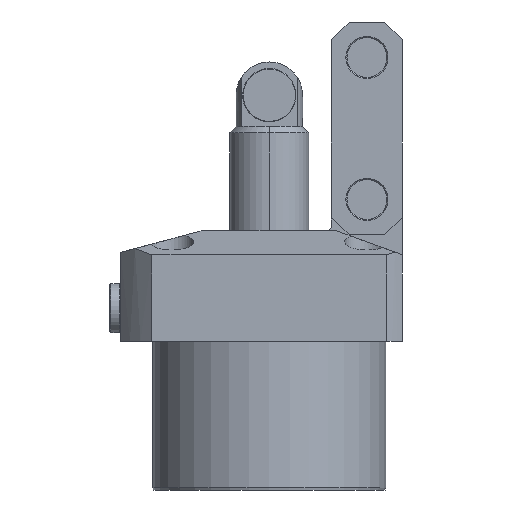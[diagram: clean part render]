
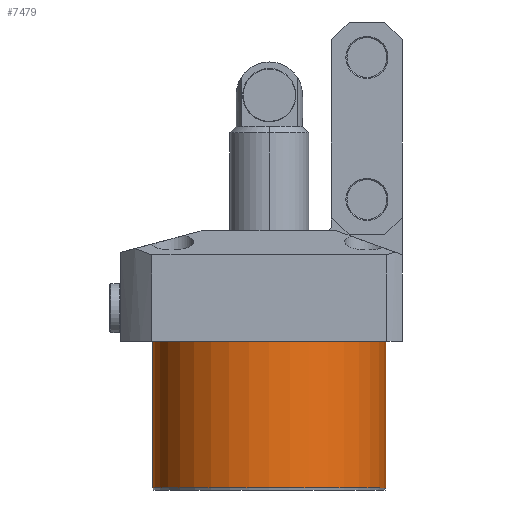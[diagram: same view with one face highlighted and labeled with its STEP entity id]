
A CAD part, front view. The second image highlights one B-rep face of the part: STEP entity #7479.
In plain terms, the highlighted cylindrical face has radius 52.5 mm (diameter 105 mm), a partial arc.
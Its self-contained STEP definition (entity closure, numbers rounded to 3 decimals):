
#1172 = VERTEX_POINT ( 'NONE', #7278 ) ;
#1739 = CARTESIAN_POINT ( 'NONE',  ( -52.5, 0., -66. ) ) ;
#1834 = CYLINDRICAL_SURFACE ( 'NONE', #7582, 52.5 ) ;
#1857 = CARTESIAN_POINT ( 'NONE',  ( 0., 0., -67. ) ) ;
#2291 = EDGE_CURVE ( 'NONE', #11722, #4925, #13828, .T. ) ;
#2991 = VECTOR ( 'NONE', #10899, 1000. ) ;
#3449 = ORIENTED_EDGE ( 'NONE', *, *, #14368, .T. ) ;
#3854 = ORIENTED_EDGE ( 'NONE', *, *, #13642, .T. ) ;
#3878 = VERTEX_POINT ( 'NONE', #17409 ) ;
#4066 = CARTESIAN_POINT ( 'NONE',  ( 52.5, 0., -66. ) ) ;
#4706 = EDGE_CURVE ( 'NONE', #11722, #1172, #9393, .T. ) ;
#4925 = VERTEX_POINT ( 'NONE', #4066 ) ;
#5023 = CARTESIAN_POINT ( 'NONE',  ( 0., 0., 0. ) ) ;
#5123 = ORIENTED_EDGE ( 'NONE', *, *, #2291, .T. ) ;
#6323 = DIRECTION ( 'NONE',  ( 1., 0., 0. ) ) ;
#7278 = CARTESIAN_POINT ( 'NONE',  ( -52.5, 0., 0. ) ) ;
#7400 = AXIS2_PLACEMENT_3D ( 'NONE', #12243, #12220, #12205 ) ;
#7479 = ADVANCED_FACE ( 'NONE', ( #10008 ), #1834, .T. ) ;
#7582 = AXIS2_PLACEMENT_3D ( 'NONE', #1857, #11382, #13997 ) ;
#8771 = DIRECTION ( 'NONE',  ( 0., 0., 1. ) ) ;
#8794 = CARTESIAN_POINT ( 'NONE',  ( -52.5, 0., -67. ) ) ;
#9367 = EDGE_LOOP ( 'NONE', ( #16475, #5123, #3449, #3854 ) ) ;
#9393 = LINE ( 'NONE', #8794, #13260 ) ;
#10008 = FACE_OUTER_BOUND ( 'NONE', #9367, .T. ) ;
#10899 = DIRECTION ( 'NONE',  ( 0., 0., 1. ) ) ;
#11382 = DIRECTION ( 'NONE',  ( 0., 0., 1. ) ) ;
#11722 = VERTEX_POINT ( 'NONE', #1739 ) ;
#12197 = CARTESIAN_POINT ( 'NONE',  ( 52.5, 0., -67. ) ) ;
#12205 = DIRECTION ( 'NONE',  ( -1., 0., 0. ) ) ;
#12220 = DIRECTION ( 'NONE',  ( 0., 0., 1. ) ) ;
#12243 = CARTESIAN_POINT ( 'NONE',  ( 0., 0., -66. ) ) ;
#13260 = VECTOR ( 'NONE', #8771, 1000. ) ;
#13312 = LINE ( 'NONE', #12197, #2991 ) ;
#13642 = EDGE_CURVE ( 'NONE', #3878, #1172, #15634, .T. ) ;
#13828 = CIRCLE ( 'NONE', #7400, 52.5 ) ;
#13997 = DIRECTION ( 'NONE',  ( 1., 0., 0. ) ) ;
#14368 = EDGE_CURVE ( 'NONE', #4925, #3878, #13312, .T. ) ;
#14423 = DIRECTION ( 'NONE',  ( 0., 0., -1. ) ) ;
#15634 = CIRCLE ( 'NONE', #16045, 52.5 ) ;
#16045 = AXIS2_PLACEMENT_3D ( 'NONE', #5023, #14423, #6323 ) ;
#16475 = ORIENTED_EDGE ( 'NONE', *, *, #4706, .F. ) ;
#17409 = CARTESIAN_POINT ( 'NONE',  ( 52.5, 0., 0. ) ) ;
